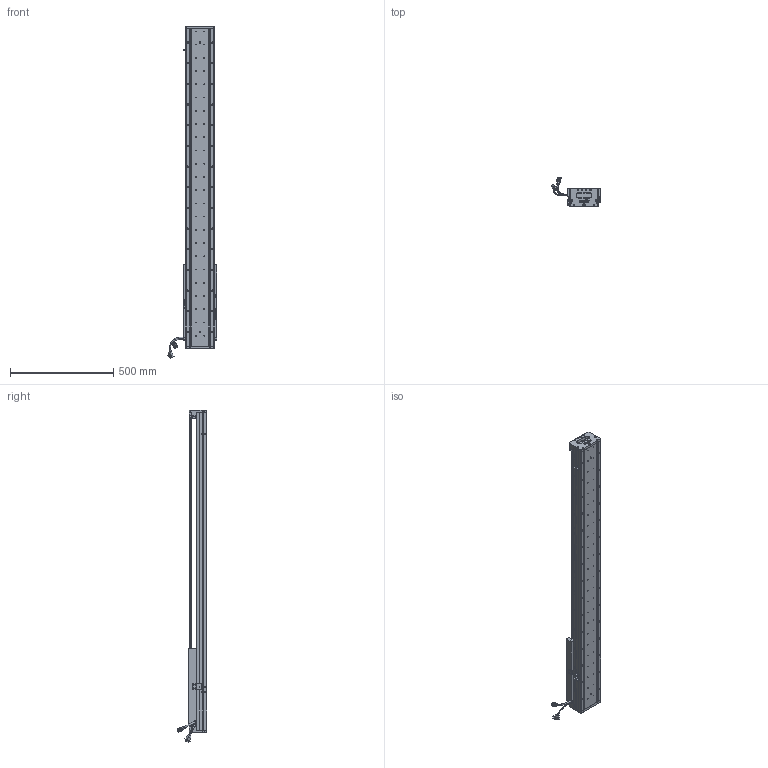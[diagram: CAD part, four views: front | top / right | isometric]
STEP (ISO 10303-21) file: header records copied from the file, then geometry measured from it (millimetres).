
FILE_DESCRIPTION (( 'STEP AP203' ), '1' );
FILE_NAME ('Z5-RY140D-1-L500-B-K.SLDASM_1100.step', '2021-05-17T08:35:58', ( '盈信电脑' ), ( '东莞市道滘镇水果街19号' ), 'SwSTEP 2.0', 'SolidWorks 2016', '' );
FILE_SCHEMA (( 'CONFIG_CONTROL_DESIGN' ));
Length unit declared in the file: millimetre
Products named in the file (36): SCALE-Part-1; HARNESS-Part-1; SCREW-M1.6-3; 詩湍奻揤裔; HOLDER0; Z5-RY140-L500直线电机模组底座_1100; SCALE-Part-2; Z-RY140感应器672光电感应片; 080黍杅芛假蚾釱21遴; SCREW-M1.6-2; HARNESS; SHIELDPLATE; Z5-RY140-L500詩湍100mm遵_1100; PBU_SHEET; COVER; SEAL; SCREW-M1.7; PSLH080_PSLF2; 詩湍狟揤裔; 榋妏寠巭燃_暯_M2_2; SCREW-M1.6-1; SCALE; Z5-RY140圉猾敕臏賑輸(21遴); 140-Z-臏賑輸盄裔(21遴); SCREW-M1.7-1; 140蚥薯蝶輸; COVER-Part-1; 覜茼ん672; LABEL; Z5-RY140D-1-L500-B-K.SLDASM_1100; Z-140詩湍傷裔啣; SCREW-M1.6; 140雄赽晤鎢ん堤盄; SEAL-Part-1; LABEL-Part-1; HARNESS-Part-2
Assembly tree (41 placements, depth 4):
  Z5-RY140D-1-L500-B-K.SLDASM_1100
    Z5-RY140-L500直线电机模组底座_1100
    Z-RY140感应器672光电感应片
    Z5-RY140圉猾敕臏賑輸(21遴)
    覜茼ん672  x3
    Z5-RY140-L500詩湍100mm遵_1100
    PSLH080_PSLF2
      SCALE
        SCALE-Part-1
        SCALE-Part-2
      HARNESS
        HARNESS-Part-1
        HARNESS-Part-2
      LABEL
        LABEL-Part-1
      COVER
        COVER-Part-1
      SEAL
        SEAL-Part-1
      榋妏寠巭燃_暯_M2_2
      SHIELDPLATE
      SCREW-M1.7
      SCREW-M1.7-1
      PBU_SHEET
      SCREW-M1.6
      SCREW-M1.6-1
      SCREW-M1.6-2
      SCREW-M1.6-3
      HOLDER0
    080黍杅芛假蚾釱21遴
    140-Z-臏賑輸盄裔(21遴)
    Z-140詩湍傷裔啣  x2
    詩湍狟揤裔  x2
    詩湍奻揤裔  x2
    140蚥薯蝶輸  x2
    140雄赽晤鎢ん堤盄
Bounding box: 239.83 x 143.88 x 1605.87 mm (x, y, z)
Volume: 5935159 mm3; surface area: 1498370.3 mm2
Topology: 36 solids, 36 shells, 3398 faces, 9066 edges, 5743 vertices
Faces by surface type: cylinder 1716, plane 1226, cone 334, torus 69, bspline 53
Entity records: 102946 total; most frequent: CARTESIAN_POINT 27059, ORIENTED_EDGE 15188, DIRECTION 14714, EDGE_CURVE 7594, AXIS2_PLACEMENT_3D 5462, VERTEX_POINT 4911, LINE 3790, VECTOR 3790
